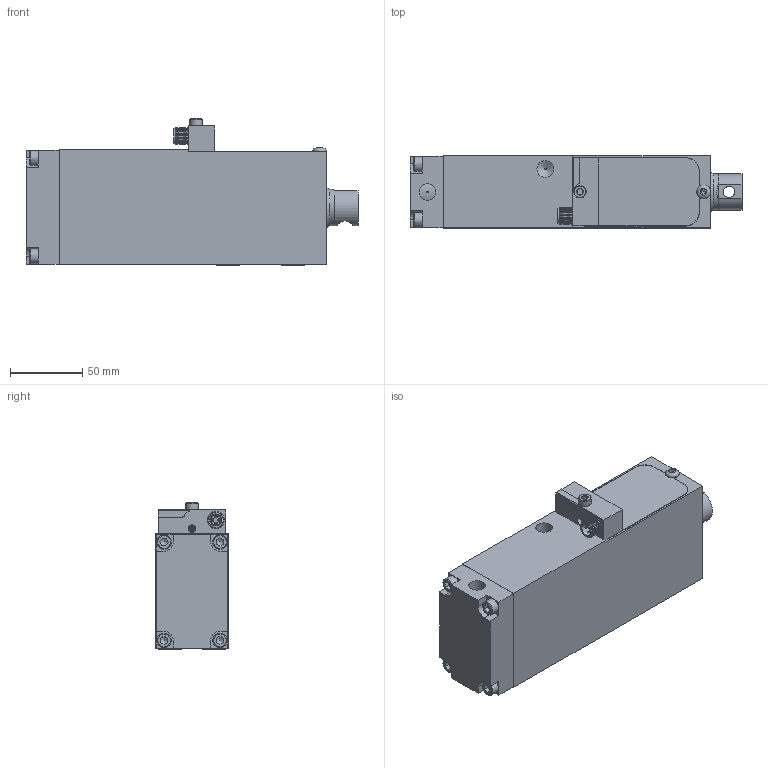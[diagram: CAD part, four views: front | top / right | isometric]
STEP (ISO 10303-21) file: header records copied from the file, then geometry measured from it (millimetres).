
FILE_DESCRIPTION(/* description */ (''),/* implementation_level */ '2;1');
FILE_NAME(/* name */ 'M:\cad\PRODUCT\LSA\LSA - 73\STEP FILES\LSA-73 S\50mm Stroke\LSA-73-S 50mm - Retract.stp',/* time_stamp */ '2018-06-01T11:01:06-04:00',/* author */ ('Tyler'),/* organization */ (''),/* preprocessor_version */ 'ST-DEVELOPER v17',/* originating_system */ 'Autodesk Inventor 2019',/* authorisation */ '');
FILE_SCHEMA (('AUTOMOTIVE_DESIGN { 1 0 10303 214 3 1 1 }'));
Length unit declared in the file: inch
Products named in the file (1): LSA-73-S  25_50 Stroke - Stripped for STEP_Substitute_1
Bounding box: 230 x 50.01 x 101.61 mm (x, y, z)
Volume: 590544.1 mm3; surface area: 139239 mm2
Topology: 2 solids, 2 shells, 484 faces, 1380 edges, 929 vertices
Faces by surface type: plane 223, cylinder 188, cone 60, torus 10, bspline 3
Full cylindrical faces by diameter (mm): 1 x8, 1.321 x2, 2 x2, 3.251 x1, 3.264 x6, 3.961 x25, 5 x26, 5.3 x4, 7.671 x2, 8.019 x1, 8.072 x2, 8.128 x1, 8.3 x1, 8.331 x1, 8.382 x4, 8.5 x1, 9.5 x1, 10 x5, 10.16 x1, 10.5 x1, 11.43 x1, 11.455 x1, 12 x1, 12.7 x2, 14.605 x1, 15.478 x1, 16.007 x1, 17.62 x1, 19.05 x2, 25.391 x1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
Entity records: 21989 total; most frequent: CARTESIAN_POINT 8686, ORIENTED_EDGE 2724, DIRECTION 2630, EDGE_CURVE 1362, AXIS2_PLACEMENT_3D 967, VERTEX_POINT 929, LINE 696, VECTOR 696
